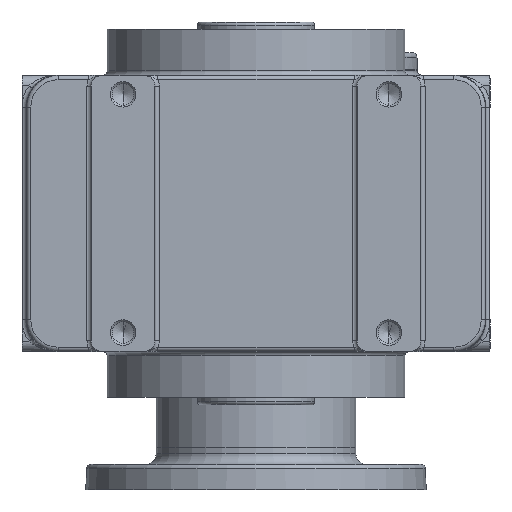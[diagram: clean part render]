
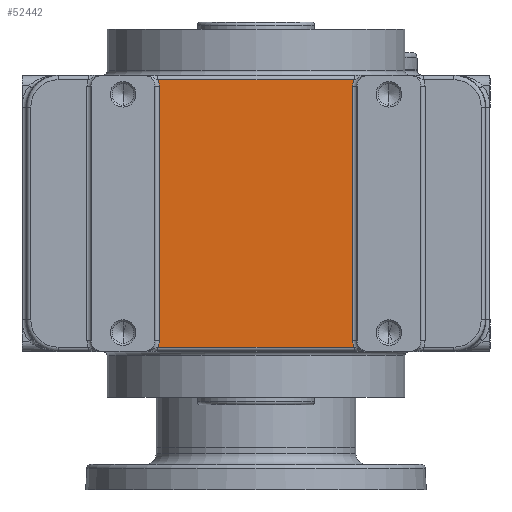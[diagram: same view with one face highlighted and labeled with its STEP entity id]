
A CAD part, front view. The second image highlights one B-rep face of the part: STEP entity #52442.
In plain terms, the highlighted planar face has unit normal (0, -1, 0).
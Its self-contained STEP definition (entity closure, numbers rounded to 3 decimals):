
#52442 = ADVANCED_FACE ( 'NONE', ( #73495 ), #73489, .T. ) ;
#52445 = EDGE_LOOP ( 'NONE', ( #52447, #52456, #52462, #52580, #52587, #52593, #52597, #52604 ) ) ;
#52447 = ORIENTED_EDGE ( 'NONE', *, *, #52449, .T. ) ;
#52449 = EDGE_CURVE ( 'NONE', #52452, #52454, #73479, .T. ) ;
#52452 = VERTEX_POINT ( 'NONE', #73472 ) ;
#52454 = VERTEX_POINT ( 'NONE', #73471 ) ;
#52456 = ORIENTED_EDGE ( 'NONE', *, *, #52458, .T. ) ;
#52458 = EDGE_CURVE ( 'NONE', #52454, #52460, #73465, .T. ) ;
#52460 = VERTEX_POINT ( 'NONE', #73460 ) ;
#52462 = ORIENTED_EDGE ( 'NONE', *, *, #52464, .T. ) ;
#52464 = EDGE_CURVE ( 'NONE', #52460, #52466, #73454, .T. ) ;
#52466 = VERTEX_POINT ( 'NONE', #73449 ) ;
#52580 = ORIENTED_EDGE ( 'NONE', *, *, #52582, .T. ) ;
#52582 = EDGE_CURVE ( 'NONE', #52466, #52585, #73716, .T. ) ;
#52585 = VERTEX_POINT ( 'NONE', #73708 ) ;
#52587 = ORIENTED_EDGE ( 'NONE', *, *, #52589, .T. ) ;
#52589 = EDGE_CURVE ( 'NONE', #52585, #52591, #73706, .T. ) ;
#52591 = VERTEX_POINT ( 'NONE', #73699 ) ;
#52593 = ORIENTED_EDGE ( 'NONE', *, *, #52595, .T. ) ;
#52595 = EDGE_CURVE ( 'NONE', #52591, #52596, #73694, .T. ) ;
#52596 = VERTEX_POINT ( 'NONE', #73688 ) ;
#52597 = ORIENTED_EDGE ( 'NONE', *, *, #52599, .T. ) ;
#52599 = EDGE_CURVE ( 'NONE', #52596, #52602, #73814, .T. ) ;
#52602 = VERTEX_POINT ( 'NONE', #73807 ) ;
#52604 = ORIENTED_EDGE ( 'NONE', *, *, #52606, .T. ) ;
#52606 = EDGE_CURVE ( 'NONE', #52602, #52452, #73802, .T. ) ;
#73449 = CARTESIAN_POINT ( 'NONE',  ( 45.517, -98., 5.157 ) ) ;
#73450 = DIRECTION ( 'NONE',  ( 0., 0., -1. ) ) ;
#73451 = DIRECTION ( 'NONE',  ( 0., 1., 0. ) ) ;
#73452 = CARTESIAN_POINT ( 'NONE',  ( 52.5, -98., 5.157 ) ) ;
#73453 = AXIS2_PLACEMENT_3D ( 'NONE', #73452, #73451, #73450 ) ;
#73454 = CIRCLE ( 'NONE', #73453, 6.983 ) ;
#73460 = CARTESIAN_POINT ( 'NONE',  ( 46.203, -98., 2.14 ) ) ;
#73461 = DIRECTION ( 'NONE',  ( 1., 0., 0. ) ) ;
#73462 = VECTOR ( 'NONE', #73461, 1000. ) ;
#73464 = CARTESIAN_POINT ( 'NONE',  ( 52.5, -98., 2.14 ) ) ;
#73465 = LINE ( 'NONE', #73464, #73462 ) ;
#73471 = CARTESIAN_POINT ( 'NONE',  ( -46.203, -98., 2.14 ) ) ;
#73472 = CARTESIAN_POINT ( 'NONE',  ( -45.517, -98., 5.157 ) ) ;
#73473 = DIRECTION ( 'NONE',  ( 0., 0., -1. ) ) ;
#73474 = DIRECTION ( 'NONE',  ( 0., 1., 0. ) ) ;
#73476 = CARTESIAN_POINT ( 'NONE',  ( -52.5, -98., 5.157 ) ) ;
#73477 = AXIS2_PLACEMENT_3D ( 'NONE', #73476, #73474, #73473 ) ;
#73479 = CIRCLE ( 'NONE', #73477, 6.983 ) ;
#73484 = DIRECTION ( 'NONE',  ( 0., 0., -1. ) ) ;
#73485 = DIRECTION ( 'NONE',  ( 0., -1., 0. ) ) ;
#73486 = CARTESIAN_POINT ( 'NONE',  ( -93., -98., 115. ) ) ;
#73488 = AXIS2_PLACEMENT_3D ( 'NONE', #73486, #73485, #73484 ) ;
#73489 = PLANE ( 'NONE',  #73488 ) ;
#73495 = FACE_OUTER_BOUND ( 'NONE', #52445, .T. ) ;
#73688 = CARTESIAN_POINT ( 'NONE',  ( -46.203, -98., 127.86 ) ) ;
#73689 = DIRECTION ( 'NONE',  ( -1., 0., 0. ) ) ;
#73690 = VECTOR ( 'NONE', #73689, 1000. ) ;
#73692 = CARTESIAN_POINT ( 'NONE',  ( -52.5, -98., 127.86 ) ) ;
#73694 = LINE ( 'NONE', #73692, #73690 ) ;
#73699 = CARTESIAN_POINT ( 'NONE',  ( 46.203, -98., 127.86 ) ) ;
#73700 = DIRECTION ( 'NONE',  ( 0., 0., -1. ) ) ;
#73701 = DIRECTION ( 'NONE',  ( 0., 1., 0. ) ) ;
#73702 = CARTESIAN_POINT ( 'NONE',  ( 52.5, -98., 124.843 ) ) ;
#73704 = AXIS2_PLACEMENT_3D ( 'NONE', #73702, #73701, #73700 ) ;
#73706 = CIRCLE ( 'NONE', #73704, 6.983 ) ;
#73708 = CARTESIAN_POINT ( 'NONE',  ( 45.517, -98., 124.843 ) ) ;
#73710 = DIRECTION ( 'NONE',  ( 0., 0., 1. ) ) ;
#73712 = VECTOR ( 'NONE', #73710, 1000. ) ;
#73714 = CARTESIAN_POINT ( 'NONE',  ( 45.517, -98., 115. ) ) ;
#73716 = LINE ( 'NONE', #73714, #73712 ) ;
#73798 = DIRECTION ( 'NONE',  ( 0., 0., -1. ) ) ;
#73799 = VECTOR ( 'NONE', #73798, 1000. ) ;
#73801 = CARTESIAN_POINT ( 'NONE',  ( -45.517, -98., 115. ) ) ;
#73802 = LINE ( 'NONE', #73801, #73799 ) ;
#73807 = CARTESIAN_POINT ( 'NONE',  ( -45.517, -98., 124.843 ) ) ;
#73808 = DIRECTION ( 'NONE',  ( 0., 0., -1. ) ) ;
#73810 = DIRECTION ( 'NONE',  ( 0., 1., 0. ) ) ;
#73812 = CARTESIAN_POINT ( 'NONE',  ( -52.5, -98., 124.843 ) ) ;
#73813 = AXIS2_PLACEMENT_3D ( 'NONE', #73812, #73810, #73808 ) ;
#73814 = CIRCLE ( 'NONE', #73813, 6.983 ) ;
